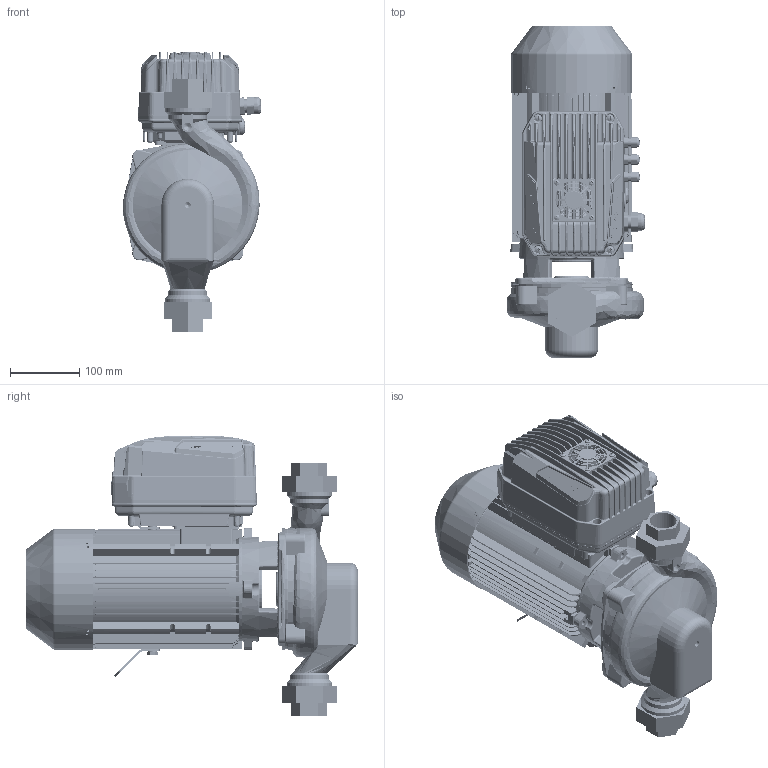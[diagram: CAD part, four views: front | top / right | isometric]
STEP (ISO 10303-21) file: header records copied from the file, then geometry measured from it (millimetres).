
FILE_DESCRIPTION(('STEP AP214'),'1');
FILE_NAME('export.stp','2022-09-07T06:23:34',(' '),(' '),'Spatial InterOp 3D',' ',' ');
FILE_SCHEMA(('AUTOMOTIVE_DESIGN { 1 0 10303 214 1 1 1 1 }'));
Length unit declared in the file: millimetre
Products named in the file (48): W_AE332MDKP90; V_TLAEAP3233L40A; V_PPAE33; 160035; 160008; V_MKP90-1_N13; 160141; 160137; 160138; 160139; 160140; Koura_Ale_M5; Plug_Blind_M20; Sealing_Plug_M20; DIN_7985-M5X8; DIN_7985-M5X12; 480037; 480036___; 480039; 480038___; 160135; 160134; DIN_EN_24017_-_M8_16-Stainless_S; V_AdapMida205_407; 210588; MIDA_180deg; BASE_MIDA_NASTEC_89; 3005020100_AF0_157; PRT0001; PRT0002; PRT0003; PRT0005; PRT0006; PRT0007; V4-25--_-_U7687_PZ_AF0_5; V4-25--_-_U7687_PZ_AF1_5; V4-25--_-_U7687_PZ_AF2_5; V4-25--_-_U7687_PZ_AF3_5; V5-30--_-_U7687_PZ_AF0_5; V5-30--_-_U7687_PZ_AF1_5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
Assembly tree (53 placements, depth 4):
  W_AE332MDKP90
    V_TLAEAP3233L40A
    V_PPAE33
    V_MKP90-1_N13
      160035
        160008
      160141
        160137
        160138
        160139
        160140
        Koura_Ale_M5
        Plug_Blind_M20
        Sealing_Plug_M20
        DIN_7985-M5X8
        DIN_7985-M5X12  x4
      480037
        480036___
      480039
        480038___
      160135
      160134  x2
      DIN_EN_24017_-_M8_16-Stainless_S  x2
    V_AdapMida205_407
      210588
      DIN_7985-M5X8  x2
    Mida205
      MIDA_180deg
        BASE_MIDA_NASTEC_89
        3005020100_AF0_157
        PRT0001
        PRT0002
        PRT0003
        PRT0005
        PRT0006
        PRT0007
        V4-25--_-_U7687_PZ_AF0_5
        V4-25--_-_U7687_PZ_AF1_5
        V4-25--_-_U7687_PZ_AF2_5
        V4-25--_-_U7687_PZ_AF3_5
        V5-30--_-_U7687_PZ_AF0_5
        V5-30--_-_U7687_PZ_AF1_5
        V5-30--_-_U7687_PZ_AF2_5
        V5-30--_-_U7687_PZ_5
        2001300200_32
        TASTIERA_MIDA_2_44
        ETICHETTA_MIDA_9
        TAPPO_PRESSACAVO_M20_5
Bounding box: 199.76 x 479.51 x 404 mm (x, y, z)
Volume: 3898192.1 mm3; surface area: 1556315.4 mm2
Topology: 44 solids, 45 shells, 6410 faces, 16575 edges, 10276 vertices
Faces by surface type: plane 2322, cylinder 1905, bspline 1420, cone 433, torus 318, sphere 12
Entity records: 321896 total; most frequent: CARTESIAN_POINT 149705, ORIENTED_EDGE 32268, DIRECTION 23270, EDGE_CURVE 16138, VERTEX_POINT 10067, AXIS2_PLACEMENT_3D 8466, EDGE_LOOP 6770, LINE 6338
